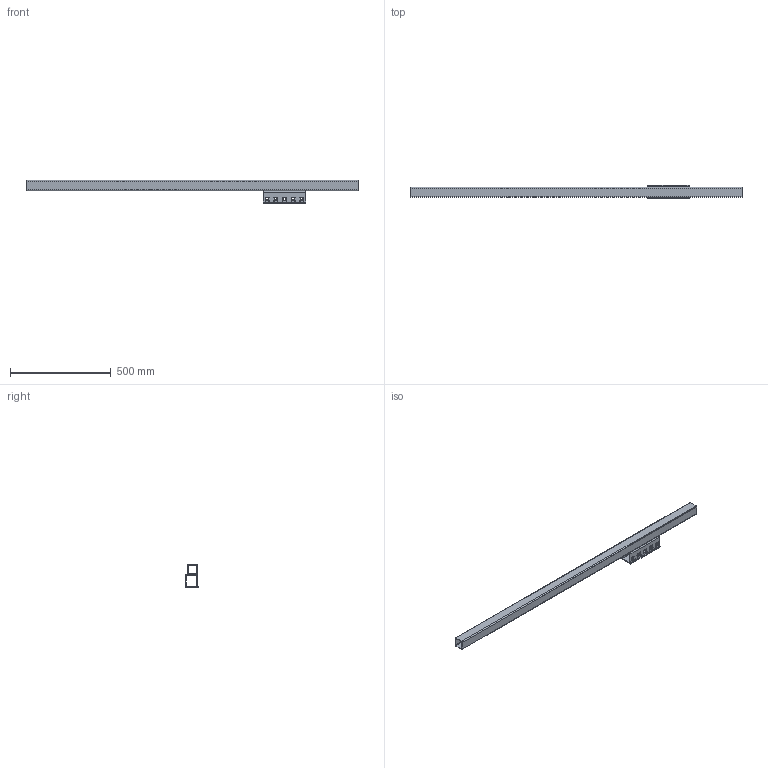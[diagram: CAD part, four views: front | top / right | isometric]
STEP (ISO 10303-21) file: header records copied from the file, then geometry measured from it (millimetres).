
FILE_DESCRIPTION (( 'STEP AP203' ), '1' );
FILE_NAME ('陓瘍盄脣芛郪璃.STEP', '2024-04-07T02:38:56', ( 'hfzkj2006@126.COM' ), ( '' ), 'SwSTEP 2.0', 'SolidWorks 2018', '' );
FILE_SCHEMA (( 'CONFIG_CONTROL_DESIGN' ));
Length unit declared in the file: millimetre
Products named in the file (4): 聆講盄滅誘啣; 瑤諾脣芛假蚾啣; 盓傅奪; 陓瘍盄脣芛郪璃
Assembly tree (3 placements, depth 2):
  陓瘍盄脣芛郪璃
    聆講盄滅誘啣
    瑤諾脣芛假蚾啣
    盓傅奪
Bounding box: 1650 x 65 x 114.5 mm (x, y, z)
Volume: 1100116 mm3; surface area: 700792.2 mm2
Topology: 3 solids, 3 shells, 235 faces, 648 edges, 416 vertices
Faces by surface type: cylinder 145, plane 74, cone 16
Entity records: 8058 total; most frequent: DIRECTION 1404, CARTESIAN_POINT 1289, ORIENTED_EDGE 1264, EDGE_CURVE 632, AXIS2_PLACEMENT_3D 531, VERTEX_POINT 416, VECTOR 342, LINE 342
